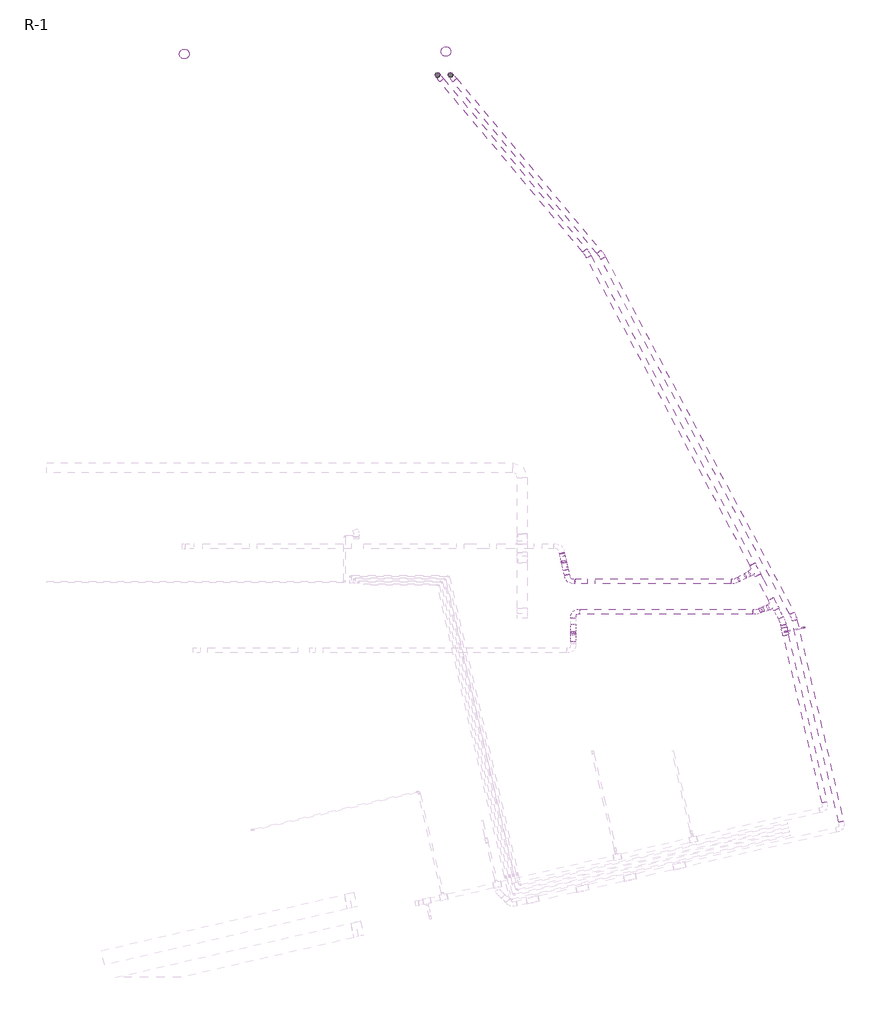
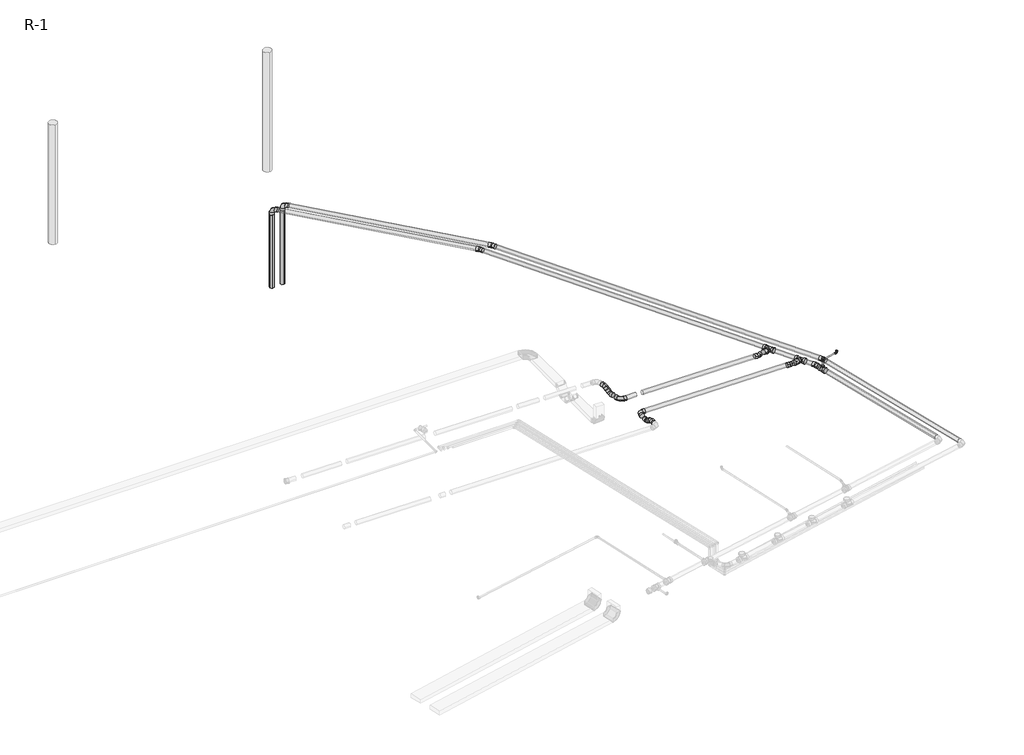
# One storey, part 4 of 4: 24 pipe segments, 21 pipe fittings.
"""IFC4 building model written with IfcOpenShell, lengths in millimetres."""

from ifc_helpers import new_model, si_unit, point, frame, frame_2d, origin, place, context, project, spatial, circle_curve, trimmed, segment, composite_curve, outline, extrude, transform, mapped, element, save
from components import coude_ff_pvc_u_standard_caf35bf8, coude_ff_pvc_u_standard_b12747aa, coude_ff_pvc_u_standard_f969a64e, coude_ff_pvc_u_standard_914ce397, coude_ff_pvc_u_standard_b7df5823, coude_ff_pvc_u_standard_ec0473e6, coude_ff_pvc_u_standard_e51808c9, coude_ff_pvc_u_standard_6033082a, coude_ff_pvc_u_standard_714bcb6f, coude_ff_pvc_u_standard_9ff05ce2, coude_ff_pvc_u_standard_63e43834, coude_ff_pvc_u_standard_f8dcd8a2, standard_b944262a, standard_9be00b02, standard_1ccfa073, standard_19720628, standard_a27af633

model = new_model("IFC4")

# Units and contexts
model_context = context("Model", 3, world=origin())
ifc_project = project(units=[si_unit("LENGTHUNIT", "METRE", prefix="MILLI")], contexts=[model_context])

# Site, building, storey
site = spatial("IfcSite", under=ifc_project)
building = spatial("IfcBuilding", under=site)
storey = spatial("IfcBuildingStorey", under=building, Name="R-1", Elevation=-2900.0)

# Pipe fittings
placement = place(None, origin())
coude_ff_pvc_u_standard_shape = coude_ff_pvc_u_standard_caf35bf8(model_context)
element("IfcPipeFitting", 1, ObjectType="Coude - FF - PVC-U : Standard", at=placement, inside=storey, context=model_context, shape_type="MappedRepresentation", body=[
    mapped(coude_ff_pvc_u_standard_shape, transform((40138.8830778, 4231.5856252, -543.9297195), x_axis=(0.22511561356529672, -0.9743320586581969, 0.0), y_axis=(0.9742807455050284, 0.22510375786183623, -0.010262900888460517), z_axis=(0.009999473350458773, 0.0023103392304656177, 0.9999473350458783))),
])
coude_ff_pvc_u_standard_2_shape = coude_ff_pvc_u_standard_b12747aa(model_context)
element("IfcPipeFitting", 2, ObjectType="Coude - FF - PVC-U : Standard", at=placement, inside=storey, context=model_context, shape_type="MappedRepresentation", body=[
    mapped(coude_ff_pvc_u_standard_2_shape, transform((40029.7985075, 4703.8097653, -432.6958003), x_axis=(0.22511561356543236, -0.9743320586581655, 0.0), y_axis=(0.0, 0.0, -1.0), z_axis=(0.9743320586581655, 0.22511561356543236, 0.0))),
])
element("IfcPipeFitting", 3, ObjectType="Coude - FF - PVC-U : Standard", at=placement, inside=storey, context=model_context, shape_type="MappedRepresentation", body=[
    mapped(coude_ff_pvc_u_standard_2_shape, transform((40065.5113424, 4549.1530354, -543.8373108), x_axis=(0.18440391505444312, -0.7981260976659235, -0.5735764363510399), y_axis=(0.1291210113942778, -0.5588539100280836, 0.8191520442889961), z_axis=(-0.9743320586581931, -0.22511561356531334, -1.869948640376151e-12))),
])
coude_ff_pvc_u_standard_3_shape = coude_ff_pvc_u_standard_f969a64e(model_context)
element("IfcPipeFitting", 4, ObjectType="Coude - FF - PVC-U : Standard", at=placement, inside=storey, context=model_context, shape_type="MappedRepresentation", body=[
    mapped(coude_ff_pvc_u_standard_3_shape, transform((40235.7772003, 3611.2875434, -540.8508696), x_axis=(-0.9999500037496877, 0.0, 0.009999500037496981), y_axis=(9.998500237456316e-05, -0.9999500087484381, 0.009998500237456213), z_axis=(0.009999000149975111, 0.009999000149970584, 0.9999000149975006))),
])
coude_ff_pvc_u_standard_4_shape = coude_ff_pvc_u_standard_914ce397(model_context)
element("IfcPipeFitting", 5, ObjectType="Coude - FF - PVC-U : Standard", at=placement, inside=storey, context=model_context, shape_type="MappedRepresentation", body=[
    mapped(coude_ff_pvc_u_standard_4_shape, transform((40235.7772003, 3092.6732645, -415.6647269), x_axis=(0.0, 0.9999500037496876, -0.009999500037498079), y_axis=(0.0, -0.009999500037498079, -0.9999500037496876), z_axis=(-1.0, 0.0, 0.0))),
])
element("IfcPipeFitting", 6, ObjectType="Coude - FF - PVC-U : Standard", at=placement, inside=storey, context=model_context, shape_type="MappedRepresentation", body=[
    mapped(coude_ff_pvc_u_standard_4_shape, transform((40235.7772003, 3266.5340141, -537.4033344), x_axis=(0.0, 0.8191520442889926, -0.5735764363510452), y_axis=(0.0, 0.5735764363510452, 0.8191520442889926), z_axis=(1.0, 0.0, 0.0))),
])
coude_ff_pvc_u_standard_5_shape = coude_ff_pvc_u_standard_b7df5823(model_context)
element("IfcPipeFitting", 7, ObjectType="Coude - FF - PVC-U : Standard", at=placement, inside=storey, context=model_context, shape_type="MappedRepresentation", body=[
    mapped(coude_ff_pvc_u_standard_5_shape, transform((43518.1696524, 4231.5856252, -577.7225853), x_axis=(0.9999500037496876, 0.0, -0.009999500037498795), y_axis=(-0.0037652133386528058, 0.9264002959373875, -0.3765213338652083), z_axis=(0.009263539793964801, 0.3765401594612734, 0.9263539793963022))),
])
coude_ff_pvc_u_standard_6_shape = coude_ff_pvc_u_standard_ec0473e6(model_context)
element("IfcPipeFitting", 8, ObjectType="Coude - FF - PVC-U : Standard", at=placement, inside=storey, context=model_context, shape_type="MappedRepresentation", body=[
    mapped(coude_ff_pvc_u_standard_6_shape, transform((43955.5912142, 3611.2875434, -578.0490098), x_axis=(0.9999500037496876, 0.0, -0.009999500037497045), y_axis=(-0.006229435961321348, 0.7822419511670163, -0.6229435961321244), z_axis=(0.00782202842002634, 0.6229747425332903, 0.7822028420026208))),
])
coude_ff_pvc_u_standard_7_shape = coude_ff_pvc_u_standard_e51808c9(model_context)
element("IfcPipeFitting", 9, ObjectType="Coude - FF - PVC-U : Standard", at=placement, inside=storey, context=model_context, shape_type="MappedRepresentation", body=[
    mapped(coude_ff_pvc_u_standard_7_shape, transform((44702.9666722, 3515.034696, -653.2098045), x_axis=(-0.22492575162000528, 0.974260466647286, -0.014998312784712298), y_axis=(-0.9743615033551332, -0.22497947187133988, -0.001974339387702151), z_axis=(-0.005297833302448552, 0.0141696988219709, 0.9998855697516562))),
])
coude_ff_pvc_u_standard_8_shape = coude_ff_pvc_u_standard_6033082a(model_context)
element("IfcPipeFitting", 10, ObjectType="Coude - FF - PVC-U : Standard", at=placement, inside=storey, context=model_context, shape_type="MappedRepresentation", body=[
    mapped(coude_ff_pvc_u_standard_8_shape, transform((37750.3507431, 14486.1146191, -849.0319027), x_axis=(-0.64271530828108, 0.7659582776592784, -0.014998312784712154), y_axis=(0.009640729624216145, -0.01148937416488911, -0.9998875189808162), z_axis=(-0.7660444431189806, -0.6427876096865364, 0.0))),
])
element("IfcPipeFitting", 11, ObjectType="Coude - FF - PVC-U : Standard", at=placement, inside=storey, context=model_context, shape_type="MappedRepresentation", body=[
    mapped(coude_ff_pvc_u_standard_8_shape, transform((37487.3581988, 14482.3214303, -866.6695428), x_axis=(0.0, 0.0, 1.0), y_axis=(0.6427876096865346, -0.7660444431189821, 0.0), z_axis=(0.7660444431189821, 0.6427876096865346, 0.0))),
])
coude_ff_pvc_u_standard_9_shape = coude_ff_pvc_u_standard_714bcb6f(model_context)
element("IfcPipeFitting", 12, ObjectType="Coude - FF - PVC-U : Standard", at=placement, inside=storey, context=model_context, shape_type="MappedRepresentation", body=[
    mapped(coude_ff_pvc_u_standard_9_shape, transform((40805.4621147, 10845.1746662, -777.7382594), x_axis=(-0.4694187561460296, 0.8828482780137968, -0.014998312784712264), y_axis=(-0.8829353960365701, -0.4694918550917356, -0.0015762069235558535), z_axis=(-0.008433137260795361, 0.012502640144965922, 0.9998862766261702))),
])
element("IfcPipeFitting", 13, ObjectType="Coude - FF - PVC-U : Standard", at=placement, inside=storey, context=model_context, shape_type="MappedRepresentation", body=[
    mapped(coude_ff_pvc_u_standard_9_shape, transform((40517.0965037, 10871.6199208, -795.9680018), x_axis=(-0.46941875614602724, 0.882848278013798, -0.01499831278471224), y_axis=(-0.8829353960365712, -0.46949185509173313, -0.0015762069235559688), z_axis=(-0.008433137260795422, 0.012502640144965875, 0.9998862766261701))),
])
coude_ff_pvc_u_standard_10_shape = coude_ff_pvc_u_standard_9ff05ce2(model_context)
element("IfcPipeFitting", 14, ObjectType="Coude - FF - PVC-U : Standard", at=placement, inside=storey, context=model_context, shape_type="MappedRepresentation", body=[
    mapped(coude_ff_pvc_u_standard_10_shape, transform((44478.7959618, 3420.7469021, -669.3884673), x_axis=(-0.22492892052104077, 0.9742597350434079, -0.014998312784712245), y_axis=(-0.9743607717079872, -0.22498264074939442, -0.0019743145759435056), z_axis=(-0.005297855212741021, 0.01416968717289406, 0.9998855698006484))),
])
coude_ff_pvc_u_standard_11_shape = coude_ff_pvc_u_standard_63e43834(model_context)
element("IfcPipeFitting", 15, ObjectType="Coude - FF - PVC-U : Standard", at=placement, inside=storey, context=model_context, shape_type="MappedRepresentation", body=[
    mapped(coude_ff_pvc_u_standard_11_shape, transform((44913.2049899, 3294.5713052, -415.2757639), x_axis=(7.742108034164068e-05, -0.00033556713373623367, -0.9999999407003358), y_axis=(-0.9743704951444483, -0.22494919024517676, 4.8738622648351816e-08), z_axis=(-0.22494917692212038, 0.9743704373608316, -0.0003443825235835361))),
])
coude_ff_pvc_u_standard_12_shape = coude_ff_pvc_u_standard_f8dcd8a2(model_context)
element("IfcPipeFitting", 16, ObjectType="Coude - FF - PVC-U : Standard", at=placement, inside=storey, context=model_context, shape_type="MappedRepresentation", body=[
    mapped(coude_ff_pvc_u_standard_12_shape, transform((44532.0453314, 3206.5723585, -421.1435541), x_axis=(0.014737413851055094, 0.0034024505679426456, 0.9998856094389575), y_axis=(0.9742578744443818, 0.22492849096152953, -0.015125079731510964), z_axis=(-0.22495422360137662, 0.9743693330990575, 0.0))),
])
standard_shape = standard_b944262a(model_context)
element("IfcPipeFitting", 17, ObjectType="EG-RCAN Té sanitaire de réduction - PVC - Nom. 40 - DWV : Standard", at=placement, inside=storey, context=model_context, shape_type="MappedRepresentation", body=[
    mapped(standard_shape, transform((43930.9626313, 4451.0715454, -686.8921898), x_axis=(0.4694187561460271, -0.8828482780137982, 0.01499831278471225), y_axis=(0.867240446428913, 0.457794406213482, -0.19575058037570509), z_axis=(0.16595191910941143, 0.10489613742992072, 0.9805390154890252))),
])
standard_2_shape = standard_9be00b02(model_context)
element("IfcPipeFitting", 18, ObjectType="Transformation - Générique : Standard", at=placement, inside=storey, context=model_context, shape_type="MappedRepresentation", body=[
    mapped(standard_2_shape, transform((43809.0518229, 4386.2504188, -659.3248844), x_axis=(-0.8658582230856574, -0.4603849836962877, 0.19579378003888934), y_axis=(0.4719634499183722, -0.8815001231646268, 0.014423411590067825), z_axis=(0.16595191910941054, 0.10489613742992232, 0.9805390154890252))),
])
standard_3_shape = standard_1ccfa073(model_context)
element("IfcPipeFitting", 19, ObjectType="EG-RCAN Té sanitaire de réduction - PVC - Nom. 40 - DWV : Standard", at=placement, inside=storey, context=model_context, shape_type="MappedRepresentation", body=[
    mapped(standard_3_shape, transform((44304.4900854, 3748.568577, -674.9576824), x_axis=(0.4694187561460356, -0.8828482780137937, 0.014998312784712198), y_axis=(0.8466948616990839, 0.44524665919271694, -0.29131293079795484), z_axis=(0.25050717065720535, 0.1494467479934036, 0.9565102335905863))),
])
standard_4_shape = standard_19720628(model_context)
element("IfcPipeFitting", 20, ObjectType="Transformation - Générique : Standard", at=placement, inside=storey, context=model_context, shape_type="MappedRepresentation", body=[
    mapped(standard_4_shape, transform((44179.0271147, 3699.2027357, -634.3863044), x_axis=(-0.8910870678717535, -0.3506155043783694, 0.288153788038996), y_axis=(0.3784309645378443, -0.9245184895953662, 0.0453383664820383), z_axis=(0.2505071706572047, 0.1494467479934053, 0.9565102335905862))),
])
standard_5_shape = standard_a27af633(model_context)
element("IfcPipeFitting", 21, ObjectType="EG-RCAN Té sanitaire de réduction - PVC - Nom. 40 - DWV : Standard", at=placement, inside=storey, context=model_context, shape_type="MappedRepresentation", body=[
    mapped(standard_5_shape, transform((44528.4352107, 3205.738884, -666.0785106), x_axis=(0.22492892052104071, -0.9742597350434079, 0.014998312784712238), y_axis=(-0.011365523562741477, -0.018015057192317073, -0.9997731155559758), z_axis=(0.9743088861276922, 0.22470742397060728, -0.01512507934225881))),
])

# Pipe segments
element("IfcPipeSegment", 22, ObjectType="PVC", at=placement, inside=storey, context=model_context, shape_type="SweptSolid", body=[
    extrude(outline(composite_curve([segment(trimmed(circle_curve(frame_2d((0.0, -50.0000001)), 50.0), [point((49.9997002, -49.8268694))], [point((0.1731306, -99.9997003))], False, "CARTESIAN"), True, "CONTINUOUS"), segment(trimmed(circle_curve(frame_2d((0.0, -50.0000001)), 50.0), [point((0.1731306, -99.9997003))], [point((-49.9997003, -50.1731307))], False, "CARTESIAN"), True, "CONTINUOUS"), segment(trimmed(circle_curve(frame_2d((0.0, -50.0000001)), 50.0), [point((-49.9997003, -50.1731307))], [point((-0.1731306, -0.0002998))], False, "CARTESIAN"), True, "CONTINUOUS"), segment(trimmed(circle_curve(frame_2d((0.0, -50.0000001)), 50.0), [point((-0.1731306, -0.0002998))], [point((49.9997002, -49.8268694))], False, "CARTESIAN"), True, "CONTINUOUS")], self_intersect=False)), frame((44720.2859551, 3440.786277, -602.0608581), z_axis=(0.22492575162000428, -0.9742604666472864, 0.014998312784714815), x_axis=(0.9743759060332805, 0.2248991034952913, -0.0034622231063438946)), (0.0, 0.0, 1.0), 4188.5709733),
])
element("IfcPipeSegment", 23, ObjectType="PVC", at=placement, inside=storey, context=model_context, shape_type="SweptSolid", body=[
    extrude(outline(composite_curve([segment(trimmed(circle_curve(frame_2d((0.0, 50.0)), 50.0), [point((-49.9984102, 49.6012755))], [point((-0.3987246, 99.9984101))], False, "CARTESIAN"), True, "CONTINUOUS"), segment(trimmed(circle_curve(frame_2d((0.0, 50.0)), 50.0), [point((-0.3987246, 99.9984101))], [point((49.9984101, 50.3987245))], False, "CARTESIAN"), True, "CONTINUOUS"), segment(trimmed(circle_curve(frame_2d((0.0, 50.0)), 50.0), [point((49.9984101, 50.3987245))], [point((0.3987245, 0.0015898))], False, "CARTESIAN"), True, "CONTINUOUS"), segment(trimmed(circle_curve(frame_2d((0.0, 50.0)), 50.0), [point((0.3987245, 0.0015898))], [point((-49.9984102, 49.6012755))], False, "CARTESIAN"), True, "CONTINUOUS")], self_intersect=False)), frame((40841.6073589, 10776.3460438, -826.5761756), z_axis=(0.4694187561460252, -0.8828482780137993, 0.014998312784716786), x_axis=(0.8829756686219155, 0.4693510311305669, -0.00797359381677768)), (0.0, 0.0, 1.0), 8148.8309085),
])
element("IfcPipeSegment", 24, ObjectType="PVC", at=placement, inside=storey, context=model_context, shape_type="SweptSolid", body=[
    extrude(outline(composite_curve([segment(trimmed(circle_curve(frame_2d((0.0, 50.0)), 50.0), [point((-49.9960409, 49.3707959))], [point((-0.6292041, 99.9960409))], False, "CARTESIAN"), True, "CONTINUOUS"), segment(trimmed(circle_curve(frame_2d((0.0, 50.0)), 50.0), [point((-0.6292041, 99.9960409))], [point((49.9960408, 50.6292042))], False, "CARTESIAN"), True, "CONTINUOUS"), segment(trimmed(circle_curve(frame_2d((0.0, 50.0)), 50.0), [point((49.9960408, 50.6292042))], [point((0.6292042, 0.0039591))], False, "CARTESIAN"), True, "CONTINUOUS"), segment(trimmed(circle_curve(frame_2d((0.0, 50.0)), 50.0), [point((0.6292042, 0.0039591))], [point((-49.9960409, 49.3707959))], False, "CARTESIAN"), True, "CONTINUOUS")], self_intersect=False)), frame((37836.4745944, 14382.497342, -897.0125461), z_axis=(0.6427153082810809, -0.7659582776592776, 0.014998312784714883), x_axis=(0.7661051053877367, 0.6425921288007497, -0.01258266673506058)), (0.0, 0.0, 1.0), 4542.4442267),
])
element("IfcPipeSegment", 25, ObjectType="PVC", at=placement, inside=storey, context=model_context, shape_type="SweptSolid", body=[
    extrude(outline(composite_curve([segment(trimmed(circle_curve(frame_2d((37750.3507431, 14486.1146191)), 50.0), [point((37800.3507431, 14486.1146191))], [point((37750.3507431, 14436.1146191))], False, "CARTESIAN"), True, "CONTINUOUS"), segment(trimmed(circle_curve(frame_2d((37750.3507431, 14486.1146191)), 50.0), [point((37750.3507431, 14436.1146191))], [point((37700.3507431, 14486.1146191))], False, "CARTESIAN"), True, "CONTINUOUS"), segment(trimmed(circle_curve(frame_2d((37750.3507431, 14486.1146191)), 50.0), [point((37700.3507431, 14486.1146191))], [point((37750.3507431, 14536.1146191))], False, "CARTESIAN"), True, "CONTINUOUS"), segment(trimmed(circle_curve(frame_2d((37750.3507431, 14486.1146191)), 50.0), [point((37750.3507431, 14536.1146191))], [point((37800.3507431, 14486.1146191))], False, "CARTESIAN"), True, "CONTINUOUS")], self_intersect=False)), frame((0.0, 0.0, -2900.0), z_axis=(0.0, 0.0, 1.0), x_axis=(1.0, 0.0, 0.0)), (0.0, 0.0, 1.0), 1916.9680973),
])
element("IfcPipeSegment", 26, ObjectType="PVC", at=placement, inside=storey, context=model_context, shape_type="SweptSolid", body=[
    extrude(outline(composite_curve([segment(trimmed(circle_curve(frame_2d((0.0, 50.0)), 50.0), [point((-49.9960408, 49.3707959))], [point((-0.6292041, 99.996041))], False, "CARTESIAN"), True, "CONTINUOUS"), segment(trimmed(circle_curve(frame_2d((0.0, 50.0)), 50.0), [point((-0.6292041, 99.996041))], [point((49.996041, 50.6292042))], False, "CARTESIAN"), True, "CONTINUOUS"), segment(trimmed(circle_curve(frame_2d((0.0, 50.0)), 50.0), [point((49.996041, 50.6292042))], [point((0.6292042, 0.0039592))], False, "CARTESIAN"), True, "CONTINUOUS"), segment(trimmed(circle_curve(frame_2d((0.0, 50.0)), 50.0), [point((0.6292042, 0.0039592))], [point((-49.9960408, 49.3707959))], False, "CARTESIAN"), True, "CONTINUOUS")], self_intersect=False)), frame((37573.4820501, 14378.7041532, -914.6501862), z_axis=(0.6427153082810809, -0.7659582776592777, 0.014998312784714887), x_axis=(0.7661051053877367, 0.6425921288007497, -0.012582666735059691)), (0.0, 0.0, 1.0), 4502.9663018),
])
element("IfcPipeSegment", 27, ObjectType="PVC", at=placement, inside=storey, context=model_context, shape_type="SweptSolid", body=[
    extrude(outline(composite_curve([segment(trimmed(circle_curve(frame_2d((0.0, 50.0)), 50.0), [point((-49.9997003, 49.8268668))], [point((-0.1731332, 99.9997003))], False, "CARTESIAN"), True, "CONTINUOUS"), segment(trimmed(circle_curve(frame_2d((0.0, 50.0)), 50.0), [point((-0.1731332, 99.9997003))], [point((49.9997002, 50.1731332))], False, "CARTESIAN"), True, "CONTINUOUS"), segment(trimmed(circle_curve(frame_2d((0.0, 50.0)), 50.0), [point((49.9997002, 50.1731332))], [point((0.1731332, 0.0002998))], False, "CARTESIAN"), True, "CONTINUOUS"), segment(trimmed(circle_curve(frame_2d((0.0, 50.0)), 50.0), [point((0.1731332, 0.0002998))], [point((-49.9997003, 49.8268668))], False, "CARTESIAN"), True, "CONTINUOUS")], self_intersect=False)), frame((44544.3859125, 3135.8801918, -715.0089903), z_axis=(0.22492892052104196, -0.9742597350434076, 0.01499831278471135), x_axis=(0.9743751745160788, 0.22490227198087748, -0.0034622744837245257)), (0.0, 0.0, 1.0), 3474.6831682),
])
element("IfcPipeSegment", 28, ObjectType="PVC", at=placement, inside=storey, context=model_context, shape_type="SweptSolid", body=[
    extrude(outline(composite_curve([segment(trimmed(circle_curve(frame_2d((37487.3581988, 14482.3214303)), 50.0), [point((37437.3581988, 14482.3214303))], [point((37487.3581988, 14532.3214303))], False, "CARTESIAN"), True, "CONTINUOUS"), segment(trimmed(circle_curve(frame_2d((37487.3581988, 14482.3214303)), 50.0), [point((37487.3581988, 14532.3214303))], [point((37537.3581988, 14482.3214303))], False, "CARTESIAN"), True, "CONTINUOUS"), segment(trimmed(circle_curve(frame_2d((37487.3581988, 14482.3214303)), 50.0), [point((37537.3581988, 14482.3214303))], [point((37487.3581988, 14432.3214303))], False, "CARTESIAN"), True, "CONTINUOUS"), segment(trimmed(circle_curve(frame_2d((37487.3581988, 14482.3214303)), 50.0), [point((37487.3581988, 14432.3214303))], [point((37437.3581988, 14482.3214303))], False, "CARTESIAN"), True, "CONTINUOUS")], self_intersect=False)), frame((0.0, 0.0, -2900.0), z_axis=(0.0, 0.0, 1.0), x_axis=(1.0, 0.0, 0.0)), (0.0, 0.0, 1.0), 1899.3304572),
])
element("IfcPipeSegment", 29, ObjectType="PVC", at=placement, inside=storey, context=model_context, shape_type="SweptSolid", body=[
    extrude(outline(composite_curve([segment(trimmed(circle_curve(frame_2d((0.0, 50.0)), 50.0), [point((-49.9997002, 49.8268668))], [point((-0.1731332, 99.9997003))], False, "CARTESIAN"), True, "CONTINUOUS"), segment(trimmed(circle_curve(frame_2d((0.0, 50.0)), 50.0), [point((-0.1731332, 99.9997003))], [point((49.9997003, 50.1731332))], False, "CARTESIAN"), True, "CONTINUOUS"), segment(trimmed(circle_curve(frame_2d((0.0, 50.0)), 50.0), [point((49.9997003, 50.1731332))], [point((0.1731332, 0.0002998))], False, "CARTESIAN"), True, "CONTINUOUS"), segment(trimmed(circle_curve(frame_2d((0.0, 50.0)), 50.0), [point((0.1731332, 0.0002998))], [point((-49.9997002, 49.8268668))], False, "CARTESIAN"), True, "CONTINUOUS")], self_intersect=False)), frame((44496.1154887, 3344.959265, -718.2276734), z_axis=(0.22492892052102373, -0.9742597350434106, 0.014998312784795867), x_axis=(0.9743751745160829, 0.22490227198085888, -0.0034622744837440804)), (0.0, 0.0, 1.0), 56.7786949),
])
element("IfcPipeSegment", 30, ObjectType="PVC", at=placement, inside=storey, context=model_context, shape_type="SweptSolid", body=[
    extrude(outline(composite_curve([segment(trimmed(circle_curve(frame_2d((1e-07, 15.9999999)), 16.0), [point((15.9663441, 14.9627645))], [point((-1.0372354, 0.0336559))], False, "CARTESIAN"), True, "CONTINUOUS"), segment(trimmed(circle_curve(frame_2d((1e-07, 15.9999999)), 16.0), [point((-1.0372354, 0.0336559))], [point((-15.966344, 17.0372354))], False, "CARTESIAN"), True, "CONTINUOUS"), segment(trimmed(circle_curve(frame_2d((1e-07, 15.9999999)), 16.0), [point((-15.966344, 17.0372354))], [point((1.0372355, 31.966344))], False, "CARTESIAN"), True, "CONTINUOUS"), segment(trimmed(circle_curve(frame_2d((1e-07, 15.9999999)), 16.0), [point((1.0372355, 31.966344))], [point((15.9663441, 14.9627645))], False, "CARTESIAN"), True, "CONTINUOUS")], self_intersect=False)), frame((44578.8097987, 3216.3044269, -404.459087), z_axis=(0.9742597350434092, 0.22492892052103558, 0.014998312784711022), x_axis=(0.2254284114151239, -0.9721010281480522, -0.0648199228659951)), (0.0, 0.0, 1.0), 295.2300229),
])
element("IfcPipeSegment", 31, ObjectType="PVC", at=placement, inside=storey, context=model_context, shape_type="SweptSolid", body=[
    extrude(outline(composite_curve([segment(trimmed(circle_curve(frame_2d((0.0, 16.0)), 16.0), [point((3.5996585, 0.410181))], [point((-15.5898191, 12.4003416))], False, "CARTESIAN"), True, "CONTINUOUS"), segment(trimmed(circle_curve(frame_2d((0.0, 16.0)), 16.0), [point((-15.5898191, 12.4003416))], [point((-3.5996585, 31.5898191))], False, "CARTESIAN"), True, "CONTINUOUS"), segment(trimmed(circle_curve(frame_2d((0.0, 16.0)), 16.0), [point((-3.5996585, 31.5898191))], [point((15.5898191, 19.5996586))], False, "CARTESIAN"), True, "CONTINUOUS"), segment(trimmed(circle_curve(frame_2d((0.0, 16.0)), 16.0), [point((15.5898191, 19.5996586))], [point((3.5996585, 0.410181))], False, "CARTESIAN"), True, "CONTINUOUS")], self_intersect=False)), frame((44529.817108, 3190.0580175, -572.2668229), z_axis=(0.014737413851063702, 0.0034024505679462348, 0.9998856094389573), x_axis=(0.9998913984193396, -5.0148768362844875e-05, -0.014737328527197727)), (0.0, 0.0, 1.0), 103.1950092),
])
element("IfcPipeSegment", 32, ObjectType="PVC", at=placement, inside=storey, context=model_context, shape_type="SweptSolid", body=[
    extrude(outline(composite_curve([segment(trimmed(circle_curve(frame_2d((0.0, -100.0)), 100.0), [point((-100.0, -100.0))], [point((0.0, 0.0))], False, "CARTESIAN"), True, "CONTINUOUS"), segment(trimmed(circle_curve(frame_2d((0.0, -100.0)), 100.0), [point((0.0, 0.0))], [point((100.0, -100.0))], False, "CARTESIAN"), True, "CONTINUOUS"), segment(trimmed(circle_curve(frame_2d((0.0, -100.0)), 100.0), [point((100.0, -100.0))], [point((0.0, -200.0))], False, "CARTESIAN"), True, "CONTINUOUS"), segment(trimmed(circle_curve(frame_2d((0.0, -100.0)), 100.0), [point((0.0, -200.0))], [point((-100.0, -100.0))], False, "CARTESIAN"), True, "CONTINUOUS")], self_intersect=False)), frame((32358.1959424, 14812.7875571, -200.0000031), z_axis=(1.1090539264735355e-08, 0.0, 1.0), x_axis=(-1.0, 0.0, 1.1090539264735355e-08)), (0.0, 0.0, 1.0), 3100.0),
])
element("IfcPipeSegment", 33, ObjectType="PVC", at=placement, inside=storey, context=model_context, shape_type="SweptSolid", body=[
    extrude(outline(composite_curve([segment(trimmed(circle_curve(frame_2d((0.0, -100.0)), 100.0), [point((-100.0, -100.0))], [point((0.0, 0.0))], False, "CARTESIAN"), True, "CONTINUOUS"), segment(trimmed(circle_curve(frame_2d((0.0, -100.0)), 100.0), [point((0.0, 0.0))], [point((100.0, -100.0))], False, "CARTESIAN"), True, "CONTINUOUS"), segment(trimmed(circle_curve(frame_2d((0.0, -100.0)), 100.0), [point((100.0, -100.0))], [point((0.0, -200.0))], False, "CARTESIAN"), True, "CONTINUOUS"), segment(trimmed(circle_curve(frame_2d((0.0, -100.0)), 100.0), [point((0.0, -200.0))], [point((-100.0, -100.0))], False, "CARTESIAN"), True, "CONTINUOUS")], self_intersect=False)), frame((37657.7890858, 14862.1554877, -200.0000031), z_axis=(1.1090539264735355e-08, 0.0, 1.0), x_axis=(-1.0, 0.0, 1.1090539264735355e-08)), (0.0, 0.0, 1.0), 3100.0),
])
element("IfcPipeSegment", 34, ObjectType="PVC", at=placement, inside=storey, context=model_context, shape_type="SweptSolid", body=[
    extrude(outline(composite_curve([segment(trimmed(circle_curve(frame_2d((0.0, 50.0)), 50.0), [point((-49.9984101, 49.6012755))], [point((-0.3987246, 99.9984101))], False, "CARTESIAN"), True, "CONTINUOUS"), segment(trimmed(circle_curve(frame_2d((0.0, 50.0)), 50.0), [point((-0.3987246, 99.9984101))], [point((49.9984102, 50.3987245))], False, "CARTESIAN"), True, "CONTINUOUS"), segment(trimmed(circle_curve(frame_2d((0.0, 50.0)), 50.0), [point((49.9984102, 50.3987245))], [point((0.3987245, 0.0015898))], False, "CARTESIAN"), True, "CONTINUOUS"), segment(trimmed(circle_curve(frame_2d((0.0, 50.0)), 50.0), [point((0.3987245, 0.0015898))], [point((-49.9984101, 49.6012755))], False, "CARTESIAN"), True, "CONTINUOUS")], self_intersect=False)), frame((44352.4985391, 3657.4285026, -723.4165594), z_axis=(0.46941875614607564, -0.8828482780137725, 0.014998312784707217), x_axis=(0.8829756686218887, 0.46935103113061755, -0.007973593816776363)), (0.0, 0.0, 1.0), 192.0506527),
])
element("IfcPipeSegment", 35, ObjectType="PVC", at=placement, inside=storey, context=model_context, shape_type="SweptSolid", body=[
    extrude(outline(composite_curve([segment(trimmed(circle_curve(frame_2d((0.0, -50.0)), 50.0), [point((-50.0, -50.0))], [point((0.0, 0.0))], False, "CARTESIAN"), True, "CONTINUOUS"), segment(trimmed(circle_curve(frame_2d((0.0, -50.0)), 50.0), [point((0.0, 0.0))], [point((50.0, -50.0))], False, "CARTESIAN"), True, "CONTINUOUS"), segment(trimmed(circle_curve(frame_2d((0.0, -50.0)), 50.0), [point((50.0, -50.0))], [point((0.0, -100.0))], False, "CARTESIAN"), True, "CONTINUOUS"), segment(trimmed(circle_curve(frame_2d((0.0, -50.0)), 50.0), [point((0.0, -100.0))], [point((-50.0, -50.0))], False, "CARTESIAN"), True, "CONTINUOUS")], self_intersect=False)), frame((40009.5381023, 4791.4996506, -482.6958003), z_axis=(-0.22511561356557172, 0.9743320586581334, 0.0), x_axis=(0.9743320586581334, 0.22511561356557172, 0.0)), (0.0, 0.0, 1.0), 15.8325049),
])
element("IfcPipeSegment", 36, ObjectType="PVC", at=placement, inside=storey, context=model_context, shape_type="SweptSolid", body=[
    extrude(outline(composite_curve([segment(trimmed(circle_curve(frame_2d((0.0, -50.0)), 50.0), [point((-49.5733545, -56.5178617))], [point((-6.5178617, -0.4266454))], False, "CARTESIAN"), True, "CONTINUOUS"), segment(trimmed(circle_curve(frame_2d((0.0, -50.0)), 50.0), [point((-6.5178617, -0.4266454))], [point((49.5733545, -43.4821382))], False, "CARTESIAN"), True, "CONTINUOUS"), segment(trimmed(circle_curve(frame_2d((0.0, -50.0)), 50.0), [point((49.5733545, -43.4821382))], [point((6.5178617, -99.5733545))], False, "CARTESIAN"), True, "CONTINUOUS"), segment(trimmed(circle_curve(frame_2d((0.0, -50.0)), 50.0), [point((6.5178617, -99.5733545))], [point((-49.5733545, -56.5178617))], False, "CARTESIAN"), True, "CONTINUOUS")], self_intersect=False)), frame((40048.9149901, 4650.1559354, -532.8235662), z_axis=(-0.18302497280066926, 0.7984438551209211, 0.5735758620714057), x_axis=(0.9831082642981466, 0.14864605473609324, 0.10678244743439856)), (0.0, 0.0, 1.0), 13.7693243),
])
element("IfcPipeSegment", 37, ObjectType="PVC", at=placement, inside=storey, context=model_context, shape_type="SweptSolid", body=[
    extrude(outline(composite_curve([segment(trimmed(circle_curve(frame_2d((0.0, 50.0)), 50.0), [point((0.0, 100.0))], [point((50.0, 50.0))], False, "CARTESIAN"), True, "CONTINUOUS"), segment(trimmed(circle_curve(frame_2d((0.0, 50.0)), 50.0), [point((50.0, 50.0))], [point((0.0, 0.0))], False, "CARTESIAN"), True, "CONTINUOUS"), segment(trimmed(circle_curve(frame_2d((0.0, 50.0)), 50.0), [point((0.0, 0.0))], [point((-50.0, 50.0))], False, "CARTESIAN"), True, "CONTINUOUS"), segment(trimmed(circle_curve(frame_2d((0.0, 50.0)), 50.0), [point((-50.0, 50.0))], [point((0.0, 100.0))], False, "CARTESIAN"), True, "CONTINUOUS")], self_intersect=False)), frame((40520.8935235, 4181.5856252, -547.749824), z_axis=(-0.999950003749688, 0.0, 0.009999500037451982), x_axis=(0.009999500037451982, 0.0, 0.999950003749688)), (0.0, 0.0, 1.0), 248.0295458),
])
element("IfcPipeSegment", 38, ObjectType="PVC", at=placement, inside=storey, context=model_context, shape_type="SweptSolid", body=[
    extrude(outline(composite_curve([segment(trimmed(circle_curve(frame_2d((0.0, -50.0)), 50.0), [point((-50.0000001, -50.0))], [point((0.0, 0.0))], False, "CARTESIAN"), True, "CONTINUOUS"), segment(trimmed(circle_curve(frame_2d((0.0, -50.0)), 50.0), [point((0.0, 0.0))], [point((50.0, -50.0))], False, "CARTESIAN"), True, "CONTINUOUS"), segment(trimmed(circle_curve(frame_2d((0.0, -50.0)), 50.0), [point((50.0, -50.0))], [point((0.0, -100.0))], False, "CARTESIAN"), True, "CONTINUOUS"), segment(trimmed(circle_curve(frame_2d((0.0, -50.0)), 50.0), [point((0.0, -100.0))], [point((-50.0000001, -50.0))], False, "CARTESIAN"), True, "CONTINUOUS")], self_intersect=False)), frame((40108.7175856, 4362.1461211, -593.9297195), z_axis=(-0.22511561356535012, 0.9743320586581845, 0.0), x_axis=(0.9743320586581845, 0.22511561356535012, 0.0)), (0.0, 0.0, 1.0), 101.8012584),
])
element("IfcPipeSegment", 39, ObjectType="PVC", at=placement, inside=storey, context=model_context, shape_type="SweptSolid", body=[
    extrude(outline(composite_curve([segment(trimmed(circle_curve(frame_2d((0.0, -50.0)), 50.0), [point((0.0, -100.0))], [point((-50.0, -50.0))], False, "CARTESIAN"), True, "CONTINUOUS"), segment(trimmed(circle_curve(frame_2d((0.0, -50.0)), 50.0), [point((-50.0, -50.0))], [point((0.0, 0.0))], False, "CARTESIAN"), True, "CONTINUOUS"), segment(trimmed(circle_curve(frame_2d((0.0, -50.0)), 50.0), [point((0.0, 0.0))], [point((50.0, -50.0))], False, "CARTESIAN"), True, "CONTINUOUS"), segment(trimmed(circle_curve(frame_2d((0.0, -50.0)), 50.0), [point((50.0, -50.0))], [point((0.0, -100.0))], False, "CARTESIAN"), True, "CONTINUOUS")], self_intersect=False)), frame((43875.0952389, 3661.2875434, -577.24405), z_axis=(-0.9999500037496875, 0.0, 0.009999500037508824), x_axis=(0.009999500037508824, 0.0, 0.9999500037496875)), (0.0, 0.0, 1.0), 3505.5),
])
element("IfcPipeSegment", 40, ObjectType="PVC", at=placement, inside=storey, context=model_context, shape_type="SweptSolid", body=[
    extrude(outline(composite_curve([segment(trimmed(circle_curve(frame_2d((0.0, -50.0)), 50.0), [point((50.0, -50.0))], [point((0.0, -100.0))], False, "CARTESIAN"), True, "CONTINUOUS"), segment(trimmed(circle_curve(frame_2d((0.0, -50.0)), 50.0), [point((0.0, -100.0))], [point((-50.0, -50.0))], False, "CARTESIAN"), True, "CONTINUOUS"), segment(trimmed(circle_curve(frame_2d((0.0, -50.0)), 50.0), [point((-50.0, -50.0))], [point((0.0, 0.0))], False, "CARTESIAN"), True, "CONTINUOUS"), segment(trimmed(circle_curve(frame_2d((0.0, -50.0)), 50.0), [point((0.0, 0.0))], [point((50.0, -50.0))], False, "CARTESIAN"), True, "CONTINUOUS")], self_intersect=False)), frame((40235.7772003, 3221.489152, -444.8238529), z_axis=(0.0, -0.8191520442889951, 0.5735764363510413), x_axis=(1.0, 0.0, 0.0)), (0.0, 0.0, 1.0), 32.2447851),
])
element("IfcPipeSegment", 41, ObjectType="PVC", at=placement, inside=storey, context=model_context, shape_type="SweptSolid", body=[
    extrude(outline(composite_curve([segment(trimmed(circle_curve(frame_2d((0.0, -50.0)), 50.0), [point((0.0, -100.0))], [point((-50.0, -50.0))], False, "CARTESIAN"), True, "CONTINUOUS"), segment(trimmed(circle_curve(frame_2d((0.0, -50.0)), 50.0), [point((-50.0, -50.0))], [point((0.0, 0.0))], False, "CARTESIAN"), True, "CONTINUOUS"), segment(trimmed(circle_curve(frame_2d((0.0, -50.0)), 50.0), [point((0.0, 0.0))], [point((49.9999999, -50.0))], False, "CARTESIAN"), True, "CONTINUOUS"), segment(trimmed(circle_curve(frame_2d((0.0, -50.0)), 50.0), [point((49.9999999, -50.0))], [point((0.0, -100.0))], False, "CARTESIAN"), True, "CONTINUOUS")], self_intersect=False)), frame((43437.6736771, 4281.5856252, -576.9176255), z_axis=(-0.9999500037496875, 0.0, 0.009999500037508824), x_axis=(0.009999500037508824, 0.0, 0.9999500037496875)), (0.0, 0.0, 1.0), 2759.5),
])
element("IfcPipeSegment", 42, ObjectType="PVC", at=placement, inside=storey, context=model_context, shape_type="SweptSolid", body=[
    extrude(outline(composite_curve([segment(trimmed(circle_curve(frame_2d((1e-07, -50.0)), 50.0), [point((46.919994, -67.2775625))], [point((-17.2775625, -96.9199939))], False, "CARTESIAN"), True, "CONTINUOUS"), segment(trimmed(circle_curve(frame_2d((1e-07, -50.0)), 50.0), [point((-17.2775625, -96.9199939))], [point((-46.9199939, -32.7224374))], False, "CARTESIAN"), True, "CONTINUOUS"), segment(trimmed(circle_curve(frame_2d((1e-07, -50.0)), 50.0), [point((-46.9199939, -32.7224374))], [point((17.2775627, -3.080006))], False, "CARTESIAN"), True, "CONTINUOUS"), segment(trimmed(circle_curve(frame_2d((1e-07, -50.0)), 50.0), [point((17.2775627, -3.080006))], [point((46.919994, -67.2775625))], False, "CARTESIAN"), True, "CONTINUOUS")], self_intersect=False)), frame((43723.4172662, 4360.2857673, -578.122717), z_axis=(-0.8658582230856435, -0.4603849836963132, 0.19579378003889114), x_axis=(0.5002894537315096, -0.7967949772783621, 0.3388631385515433)), (0.0, 0.0, 1.0), 156.5452903),
])
element("IfcPipeSegment", 43, ObjectType="PVC", at=placement, inside=storey, context=model_context, shape_type="SweptSolid", body=[
    extrude(outline(composite_curve([segment(trimmed(circle_curve(frame_2d((0.0, 50.0)), 50.0), [point((-49.9984102, 49.6012755))], [point((-0.3987246, 99.9984102))], False, "CARTESIAN"), True, "CONTINUOUS"), segment(trimmed(circle_curve(frame_2d((0.0, 50.0)), 50.0), [point((-0.3987246, 99.9984102))], [point((49.9984102, 50.3987246))], False, "CARTESIAN"), True, "CONTINUOUS"), segment(trimmed(circle_curve(frame_2d((0.0, 50.0)), 50.0), [point((49.9984102, 50.3987246))], [point((0.3987246, 0.0015899))], False, "CARTESIAN"), True, "CONTINUOUS"), segment(trimmed(circle_curve(frame_2d((0.0, 50.0)), 50.0), [point((0.3987246, 0.0015899))], [point((-49.9984102, 49.6012755))], False, "CARTESIAN"), True, "CONTINUOUS")], self_intersect=False)), frame((40553.2417479, 10802.7912984, -844.805918), z_axis=(0.4694187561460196, -0.8828482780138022, 0.014998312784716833), x_axis=(0.8829756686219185, 0.4693510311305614, -0.007973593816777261)), (0.0, 0.0, 1.0), 7057.6289153),
])
element("IfcPipeSegment", 44, ObjectType="PVC", at=placement, inside=storey, context=model_context, shape_type="SweptSolid", body=[
    extrude(outline(composite_curve([segment(trimmed(circle_curve(frame_2d((0.0, -50.0)), 50.0), [point((40.3393306, -79.5421462))], [point((-29.5421462, -90.3393306))], False, "CARTESIAN"), True, "CONTINUOUS"), segment(trimmed(circle_curve(frame_2d((0.0, -50.0)), 50.0), [point((-29.5421462, -90.3393306))], [point((-40.3393306, -20.4578537))], False, "CARTESIAN"), True, "CONTINUOUS"), segment(trimmed(circle_curve(frame_2d((0.0, -50.0)), 50.0), [point((-40.3393306, -20.4578537))], [point((29.5421463, -9.6606694))], False, "CARTESIAN"), True, "CONTINUOUS"), segment(trimmed(circle_curve(frame_2d((0.0, -50.0)), 50.0), [point((29.5421463, -9.6606694))], [point((40.3393306, -79.5421462))], False, "CARTESIAN"), True, "CONTINUOUS")], self_intersect=False)), frame((44084.0495024, 3693.5786696, -580.9606902), z_axis=(-0.891087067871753, -0.35061550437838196, 0.2881537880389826), x_axis=(0.45383238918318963, -0.6884236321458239, 0.5657818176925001)), (0.0, 0.0, 1.0), 63.6590758),
])
element("IfcPipeSegment", 45, ObjectType="PVC", at=placement, inside=storey, context=model_context, shape_type="SweptSolid", body=[
    extrude(outline(composite_curve([segment(trimmed(circle_curve(frame_2d((0.0, 49.9999999)), 50.0), [point((-49.9984102, 49.6012754))], [point((-0.3987246, 99.9984101))], False, "CARTESIAN"), True, "CONTINUOUS"), segment(trimmed(circle_curve(frame_2d((0.0, 49.9999999)), 50.0), [point((-0.3987246, 99.9984101))], [point((49.9984101, 50.3987244))], False, "CARTESIAN"), True, "CONTINUOUS"), segment(trimmed(circle_curve(frame_2d((0.0, 49.9999999)), 50.0), [point((49.9984101, 50.3987244))], [point((0.3987245, 0.0015898))], False, "CARTESIAN"), True, "CONTINUOUS"), segment(trimmed(circle_curve(frame_2d((0.0, 49.9999999)), 50.0), [point((0.3987245, 0.0015898))], [point((-49.9984102, 49.6012754))], False, "CARTESIAN"), True, "CONTINUOUS")], self_intersect=False)), frame((43981.8883031, 4354.4449818, -735.2578592), z_axis=(0.46941875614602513, -0.8828482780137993, 0.014998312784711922), x_axis=(0.8829756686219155, 0.4693510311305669, -0.00797359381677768)), (0.0, 0.0, 1.0), 549.3267628),
])

save(model, "model.ifc")
